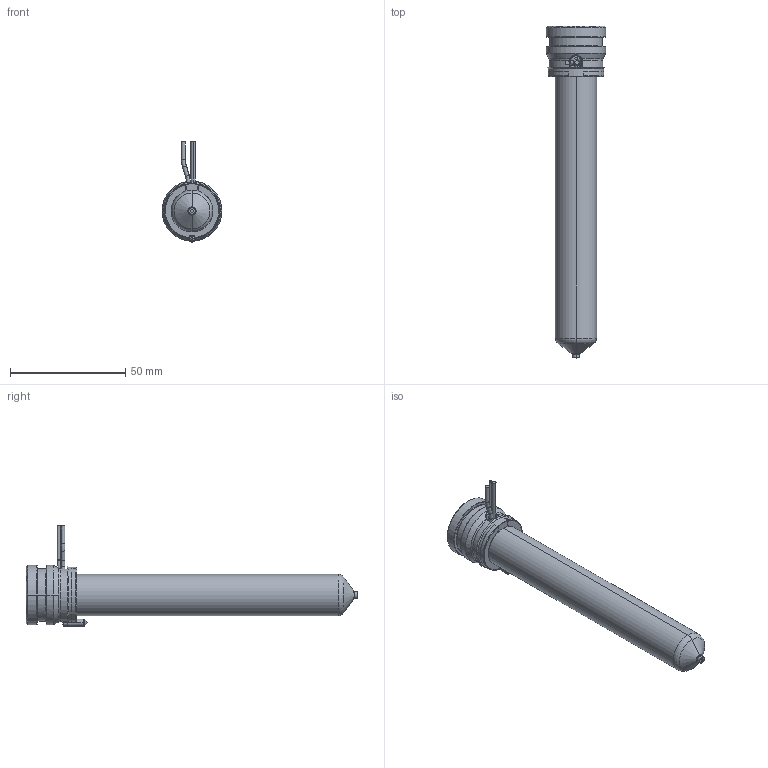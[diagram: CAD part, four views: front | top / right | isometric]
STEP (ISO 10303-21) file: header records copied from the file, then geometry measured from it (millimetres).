
FILE_DESCRIPTION((''),'2;1');
FILE_NAME('MPN-08-24-VP3-126-A','2026-02-05T12:01:57',('UPTIO'),('Thermoplay S.p.A.'),'CREO PARAMETRIC BY PTC INC, 2023494','CREO PARAMETRIC BY PTC INC, 2023494','');
FILE_SCHEMA(('CONFIG_CONTROL_DESIGN','SHAPE_APPEARANCE_LAYERS_GROUPS'));
Length unit declared in the file: millimetre
Products named in the file (1): MPN-08-24-VP3-126-A
Bounding box: 26 x 144.1 x 43.5 mm (x, y, z)
Volume: 27798.4 mm3; surface area: 35771.1 mm2
Topology: 2 solids, 3 shells, 587 faces, 1560 edges, 971 vertices
Faces by surface type: cylinder 184, plane 143, bspline 108, torus 70, cone 68, sphere 8, extrusion 6
Entity records: 31968 total; most frequent: CARTESIAN_POINT 14734, ORIENTED_EDGE 3104, DIRECTION 2714, EDGE_CURVE 1552, AXIS2_PLACEMENT_3D 1061, VERTEX_POINT 971, EDGE_LOOP 615, VECTOR 592
